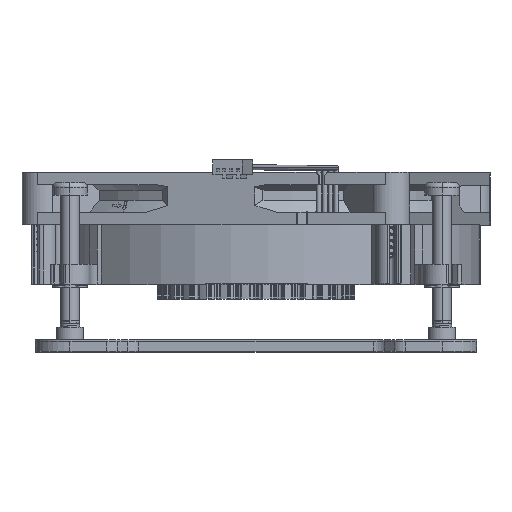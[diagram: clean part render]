
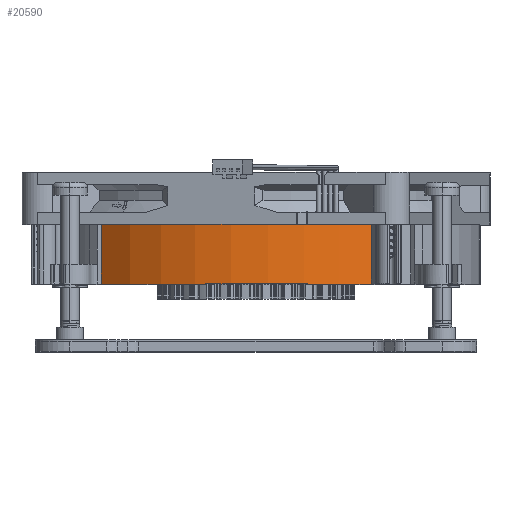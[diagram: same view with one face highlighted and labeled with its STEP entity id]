
A CAD part, top view. The second image highlights one B-rep face of the part: STEP entity #20590.
In plain terms, the highlighted cylindrical face has radius 45.1 mm (diameter 90.2 mm), a partial arc.
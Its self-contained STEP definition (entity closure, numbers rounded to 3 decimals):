
#319=CARTESIAN_POINT('',(1463.353,685.972,0.));
#320=DIRECTION('',(0.,-1.,0.));
#321=DIRECTION('',(0.515,0.,0.857));
#322=AXIS2_PLACEMENT_3D('',#319,#320,#321);
#7517=CARTESIAN_POINT('',(1463.353,697.972,0.));
#7518=DIRECTION('',(0.,-1.,0.));
#7519=DIRECTION('',(0.515,0.,0.857));
#7520=AXIS2_PLACEMENT_3D('',#7517,#7518,#7519);
#8085=DIRECTION('',(0.,-1.,0.));
#8086=VECTOR('',#8085,12.);
#8087=CARTESIAN_POINT('',(1486.581,697.972,38.659));
#8088=LINE('',#8087,#8086);
#8089=DIRECTION('',(0.,-1.,0.));
#8090=VECTOR('',#8089,12.);
#8091=CARTESIAN_POINT('',(1432.178,697.972,32.59));
#8092=LINE('',#8091,#8090);
#10524=CARTESIAN_POINT('',(1486.581,697.972,38.659));
#10525=CARTESIAN_POINT('',(1486.581,685.972,38.659));
#10526=VERTEX_POINT('',#10524);
#10527=VERTEX_POINT('',#10525);
#10852=CARTESIAN_POINT('',(1432.178,697.972,32.59));
#10853=CARTESIAN_POINT('',(1432.178,685.972,32.59));
#10854=VERTEX_POINT('',#10852);
#10855=VERTEX_POINT('',#10853);
#20576=CARTESIAN_POINT('',(1463.353,685.972,0.));
#20577=DIRECTION('',(0.,-1.,0.));
#20578=DIRECTION('',(1.,0.,0.));
#20579=AXIS2_PLACEMENT_3D('',#20576,#20577,#20578);
#20580=CYLINDRICAL_SURFACE('',#20579,45.1);
#20582=ORIENTED_EDGE('',*,*,#20581,.T.);
#20583=ORIENTED_EDGE('',*,*,#11209,.T.);
#20585=ORIENTED_EDGE('',*,*,#20584,.F.);
#20587=ORIENTED_EDGE('',*,*,#20586,.F.);
#20588=EDGE_LOOP('',(#20582,#20583,#20585,#20587));
#20589=FACE_OUTER_BOUND('',#20588,.F.);
#20590=ADVANCED_FACE('',(#20589),#20580,.T.);
#323=CIRCLE('',#322,45.1);
#7521=CIRCLE('',#7520,45.1);
#11209=EDGE_CURVE('',#10527,#10855,#323,.T.);
#20581=EDGE_CURVE('',#10526,#10527,#8088,.T.);
#20584=EDGE_CURVE('',#10854,#10855,#8092,.T.);
#20586=EDGE_CURVE('',#10526,#10854,#7521,.T.);
